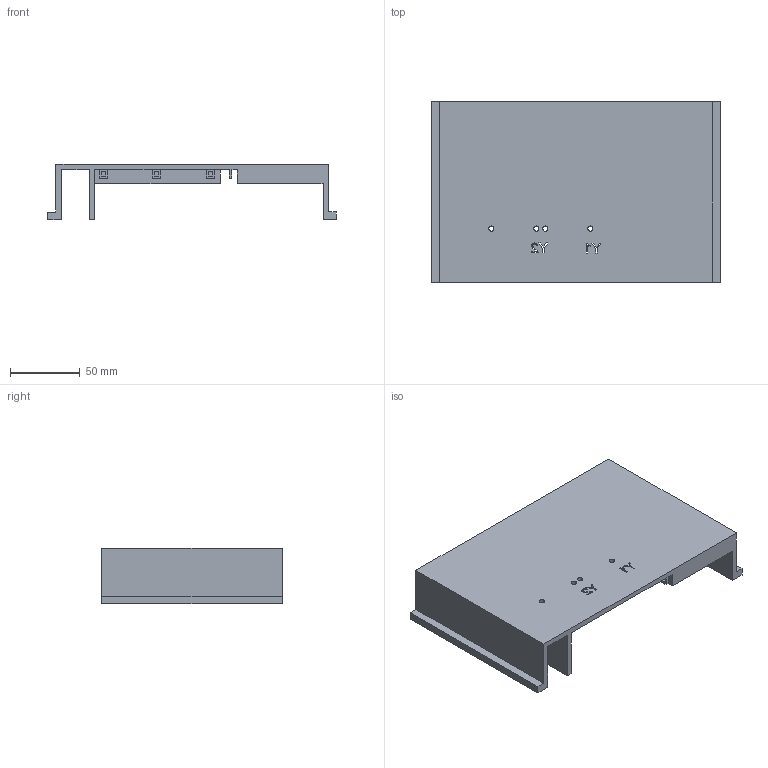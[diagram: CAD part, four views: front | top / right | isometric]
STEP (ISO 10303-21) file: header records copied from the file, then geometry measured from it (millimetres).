
FILE_DESCRIPTION(/* description */ (''),/* implementation_level */ '2;1');
FILE_NAME(/* name */ '/Users/davidflorian/Library/Mobile Documents/com~apple~CloudDocs/Vanderbilt/Papers/OTTO/Supplemental Material/3D-Printable-Components-STEP-Files/Electronics-Tray-2.step',/* time_stamp */ '2020-06-30T23:20:34-05:00',/* author */ (''),/* organization */ (''),/* preprocessor_version */ 'ST-DEVELOPER v18.1',/* originating_system */ 'Autodesk Translation Framework v9.3.0.1241',/* authorisation */ '');
FILE_SCHEMA (('AUTOMOTIVE_DESIGN { 1 0 10303 214 3 1 1 }'));
Length unit declared in the file: millimetre
Products named in the file (1): Electronics-Tray-2
Bounding box: 207.6 x 130 x 40 mm (x, y, z)
Volume: 183198.5 mm3; surface area: 94159.9 mm2
Topology: 1 solids, 1 shells, 207 faces, 580 edges, 386 vertices
Faces by surface type: plane 176, bspline 26, cylinder 5
Full cylindrical faces by diameter (mm): 3.74 x1, 3.75 x3
Entity records: 6903 total; most frequent: CARTESIAN_POINT 1616, ORIENTED_EDGE 1160, DIRECTION 904, EDGE_CURVE 580, LINE 516, VECTOR 516, VERTEX_POINT 386, EDGE_LOOP 258
